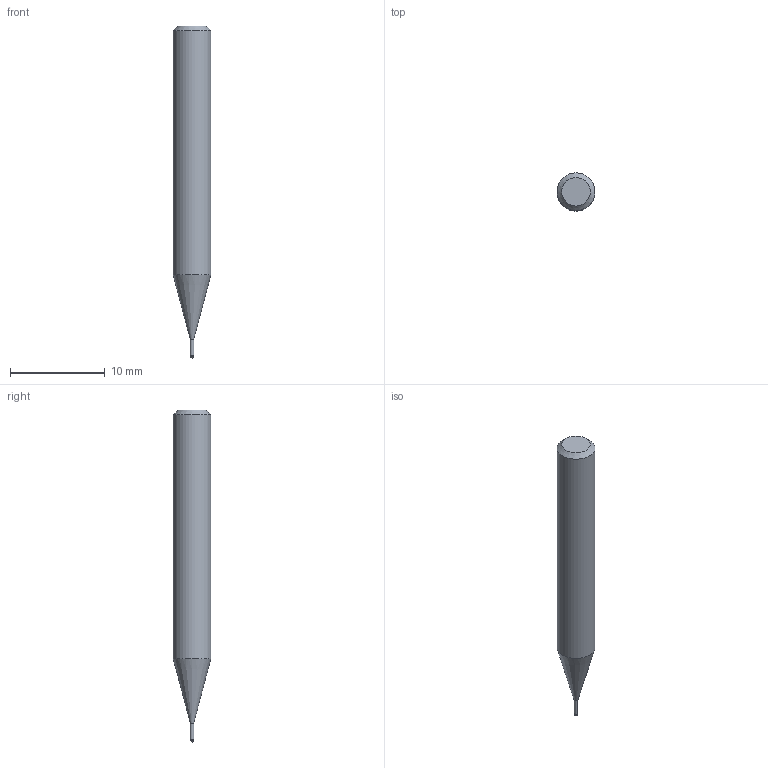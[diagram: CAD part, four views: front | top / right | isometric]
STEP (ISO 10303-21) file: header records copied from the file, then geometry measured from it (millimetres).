
FILE_DESCRIPTION((''),'2;1');
FILE_NAME('C:\Users\nsx150\AppData\Local\Temp\Mastercam 2021\QT8KEW0Y7J\TEMP.step','2021-04-23T11:20:35',(''),(''),'STEP Write','Mastercam 2021 ... CNC Software, Inc.','');
FILE_SCHEMA(('AUTOMOTIVE_DESIGN'));
Length unit declared in the file: millimetre
Products named in the file (1): None
Bounding box: 4 x 4 x 35 mm (x, y, z)
Volume: 359.6 mm3; surface area: 388.9 mm2
Topology: 2 solids, 2 shells, 9 faces, 14 edges, 8 vertices
Faces by surface type: plane 3, cylinder 3, cone 2, sphere 1
Full cylindrical faces by diameter (mm): 0.37 x1, 0.4 x1, 4 x1
Entity records: 211 total; most frequent: DIRECTION 36, CARTESIAN_POINT 25, AXIS2_PLACEMENT_3D 18, ORIENTED_EDGE 14, EDGE_LOOP 14, STYLED_ITEM 12, ADVANCED_FACE 9, FACE_BOUND 8
